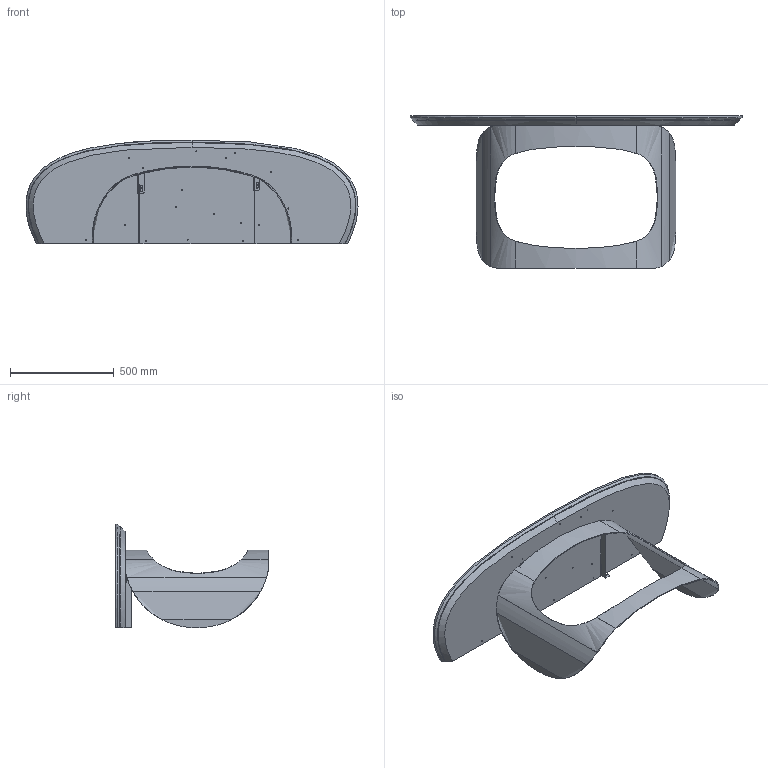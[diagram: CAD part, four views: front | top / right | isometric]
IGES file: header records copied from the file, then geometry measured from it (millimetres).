
Start section: SolidWorks IGES file using analytic representation for surfaces
Global section: file name: Y:\eforma\TECNICO\SOLIDWORKS\E-FORMA\3-CONSOLE\POLIFEMO CONSOLE\08 modelli 3D web\PO60M_Polifemo Console_160x50x73h_Marble Shaped.IGS; native system: SolidWorks 2022; preprocessor: SolidWorks 2022; author: eforma.tech; date: 240802.101706; units: millimetre
Bounding box: 1599.87 x 735 x 500.03 mm (x, y, z)
Volume: 33019846.6 mm3; surface area: 4053563.6 mm2
Topology: 7 solids, 7 shells, 289 faces, 753 edges, 474 vertices
Faces by surface type: revolution 153, plane 84, bspline 52
